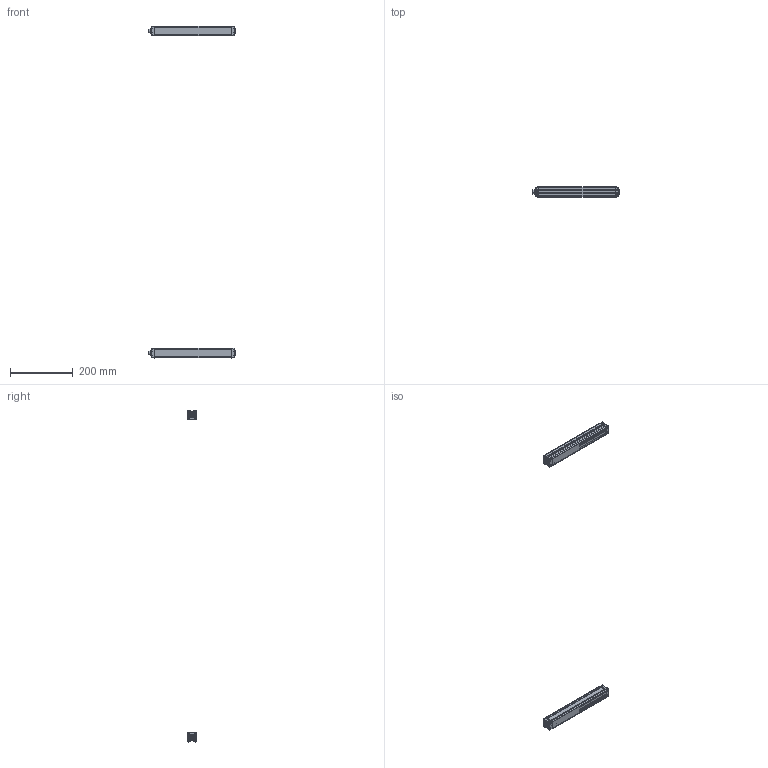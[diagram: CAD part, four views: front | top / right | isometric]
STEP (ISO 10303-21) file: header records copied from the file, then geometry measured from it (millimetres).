
FILE_DESCRIPTION(/* description */ (''),/* implementation_level */ '2;1');
FILE_NAME(/* name */ 'THS10-22.stp',/* time_stamp */ '2023-08-09T17:06:13+08:00',/* author */ (''),/* organization */ (''),/* preprocessor_version */ 'ST-DEVELOPER v16',/* originating_system */ 'SIEMENS PLM Software NX 11.0',/* authorisation */ '');
FILE_SCHEMA (('AP203_CONFIGURATION_CONTROLLED_3D_DESIGN_OF_MECHANICAL_PARTS_AND_ASSEMBLIES_MIM_LF { 1 0 10303 403 2 1 2}'));
Length unit declared in the file: millimetre
Products named in the file (10): 16; 14; 12; 13; 102; 101; 11; ASM0002_ASM; THS10-100; 0
Assembly tree (10 placements, depth 4):
  0
    THS10-100  x2
      11
      101
      102
      13
      12
      ASM0002_ASM
        14
        16
Bounding box: 277 x 30.3 x 1058.6 mm (x, y, z)
Volume: 161544.2 mm3; surface area: 195298.3 mm2
Topology: 10 solids, 14 shells, 1080 faces, 3010 edges, 1986 vertices
Faces by surface type: plane 764, cylinder 288, cone 28
Entity records: 18606 total; most frequent: CARTESIAN_POINT 3165, ORIENTED_EDGE 3006, DIRECTION 2923, EDGE_CURVE 1505, LINE 1173, VECTOR 1173, VERTEX_POINT 993, AXIS2_PLACEMENT_3D 875
